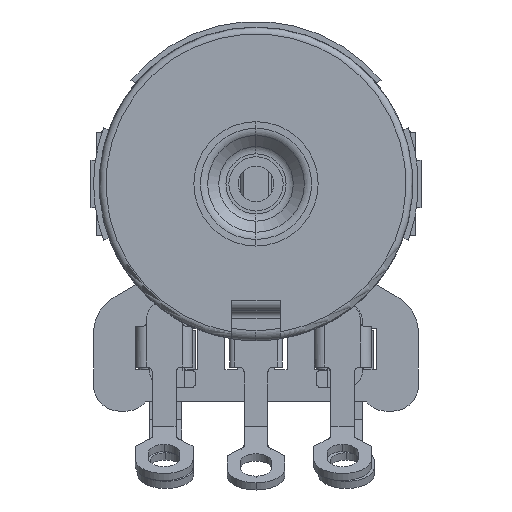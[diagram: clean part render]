
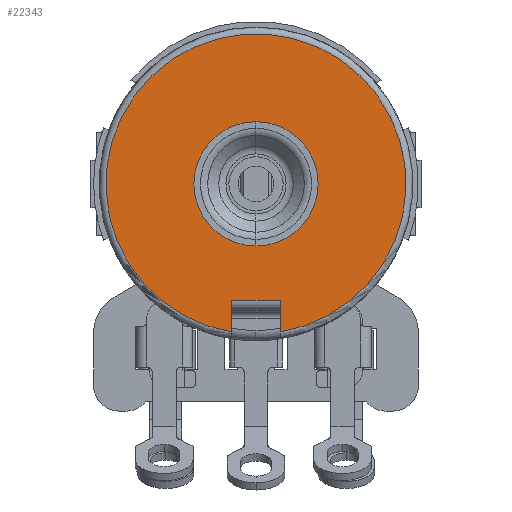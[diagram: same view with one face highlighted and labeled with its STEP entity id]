
A CAD part, front view. The second image highlights one B-rep face of the part: STEP entity #22343.
In plain terms, the highlighted planar face has unit normal (0, -1, 0).
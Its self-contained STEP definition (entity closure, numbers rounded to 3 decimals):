
#607 = DIRECTION ( 'NONE',  ( 0., -1., 0. ) ) ;
#711 = DIRECTION ( 'NONE',  ( 0., 0., 1. ) ) ;
#1046 = EDGE_LOOP ( 'NONE', ( #15765, #17386, #23997, #20416 ) ) ;
#2098 = LINE ( 'NONE', #32356, #30114 ) ;
#2992 = ORIENTED_EDGE ( 'NONE', *, *, #31458, .F. ) ;
#3381 = FACE_OUTER_BOUND ( 'NONE', #1046, .T. ) ;
#5088 = AXIS2_PLACEMENT_3D ( 'NONE', #25117, #8905, #711 ) ;
#5536 = EDGE_CURVE ( 'NONE', #5784, #21505, #10317, .T. ) ;
#5784 = VERTEX_POINT ( 'NONE', #6380 ) ;
#6380 = CARTESIAN_POINT ( 'NONE',  ( -1.194, -0.194, -5.695 ) ) ;
#7303 = DIRECTION ( 'NONE',  ( 0., 0., -1. ) ) ;
#8905 = DIRECTION ( 'NONE',  ( 0., 1., 0. ) ) ;
#9003 = ORIENTED_EDGE ( 'NONE', *, *, #22883, .F. ) ;
#9626 = LINE ( 'NONE', #12808, #27779 ) ;
#10164 = CARTESIAN_POINT ( 'NONE',  ( -1.194, -0.194, -7.249 ) ) ;
#10317 = LINE ( 'NONE', #10495, #18242 ) ;
#10465 = DIRECTION ( 'NONE',  ( 0., 0., -1. ) ) ;
#10495 = CARTESIAN_POINT ( 'NONE',  ( -3.044, -0.194, -5.695 ) ) ;
#11232 = FACE_BOUND ( 'NONE', #32177, .T. ) ;
#12179 = CIRCLE ( 'NONE', #18997, 3.044 ) ;
#12186 = DIRECTION ( 'NONE',  ( 0., -1., 0. ) ) ;
#12808 = CARTESIAN_POINT ( 'NONE',  ( 1.194, -0.194, 0. ) ) ;
#13195 = CARTESIAN_POINT ( 'NONE',  ( 0., -0.194, 3.044 ) ) ;
#14476 = DIRECTION ( 'NONE',  ( 0., 0., -1. ) ) ;
#14674 = DIRECTION ( 'NONE',  ( 0., 0., -1. ) ) ;
#15035 = CARTESIAN_POINT ( 'NONE',  ( 0., -0.194, 0. ) ) ;
#15437 = CARTESIAN_POINT ( 'NONE',  ( 1.194, -0.194, -7.249 ) ) ;
#15765 = ORIENTED_EDGE ( 'NONE', *, *, #17775, .F. ) ;
#16708 = CIRCLE ( 'NONE', #20161, 7.347 ) ;
#16918 = PLANE ( 'NONE',  #5088 ) ;
#17386 = ORIENTED_EDGE ( 'NONE', *, *, #5536, .T. ) ;
#17775 = EDGE_CURVE ( 'NONE', #5784, #24675, #2098, .T. ) ;
#18242 = VECTOR ( 'NONE', #29195, 1000. ) ;
#18997 = AXIS2_PLACEMENT_3D ( 'NONE', #15035, #12186, #20903 ) ;
#20161 = AXIS2_PLACEMENT_3D ( 'NONE', #25013, #607, #14674 ) ;
#20416 = ORIENTED_EDGE ( 'NONE', *, *, #33854, .T. ) ;
#20903 = DIRECTION ( 'NONE',  ( 0., 0., -1. ) ) ;
#21505 = VERTEX_POINT ( 'NONE', #28772 ) ;
#22343 = ADVANCED_FACE ( 'NONE', ( #11232, #3381 ), #16918, .F. ) ;
#22877 = CARTESIAN_POINT ( 'NONE',  ( 0., -0.194, -3.044 ) ) ;
#22883 = EDGE_CURVE ( 'NONE', #31666, #22938, #12179, .T. ) ;
#22938 = VERTEX_POINT ( 'NONE', #22877 ) ;
#23997 = ORIENTED_EDGE ( 'NONE', *, *, #29220, .T. ) ;
#24242 = AXIS2_PLACEMENT_3D ( 'NONE', #27824, #33512, #14476 ) ;
#24675 = VERTEX_POINT ( 'NONE', #10164 ) ;
#25013 = CARTESIAN_POINT ( 'NONE',  ( 0., -0.194, 0. ) ) ;
#25117 = CARTESIAN_POINT ( 'NONE',  ( -3.044, -0.194, 0. ) ) ;
#27779 = VECTOR ( 'NONE', #7303, 1000. ) ;
#27824 = CARTESIAN_POINT ( 'NONE',  ( 0., -0.194, 0. ) ) ;
#28772 = CARTESIAN_POINT ( 'NONE',  ( 1.194, -0.194, -5.695 ) ) ;
#29195 = DIRECTION ( 'NONE',  ( 1., 0., 0. ) ) ;
#29220 = EDGE_CURVE ( 'NONE', #21505, #32550, #9626, .T. ) ;
#30114 = VECTOR ( 'NONE', #10465, 1000. ) ;
#31458 = EDGE_CURVE ( 'NONE', #22938, #31666, #34456, .T. ) ;
#31666 = VERTEX_POINT ( 'NONE', #13195 ) ;
#32177 = EDGE_LOOP ( 'NONE', ( #2992, #9003 ) ) ;
#32356 = CARTESIAN_POINT ( 'NONE',  ( -1.194, -0.194, -6.203 ) ) ;
#32550 = VERTEX_POINT ( 'NONE', #15437 ) ;
#33512 = DIRECTION ( 'NONE',  ( 0., -1., 0. ) ) ;
#33854 = EDGE_CURVE ( 'NONE', #32550, #24675, #16708, .T. ) ;
#34456 = CIRCLE ( 'NONE', #24242, 3.044 ) ;
